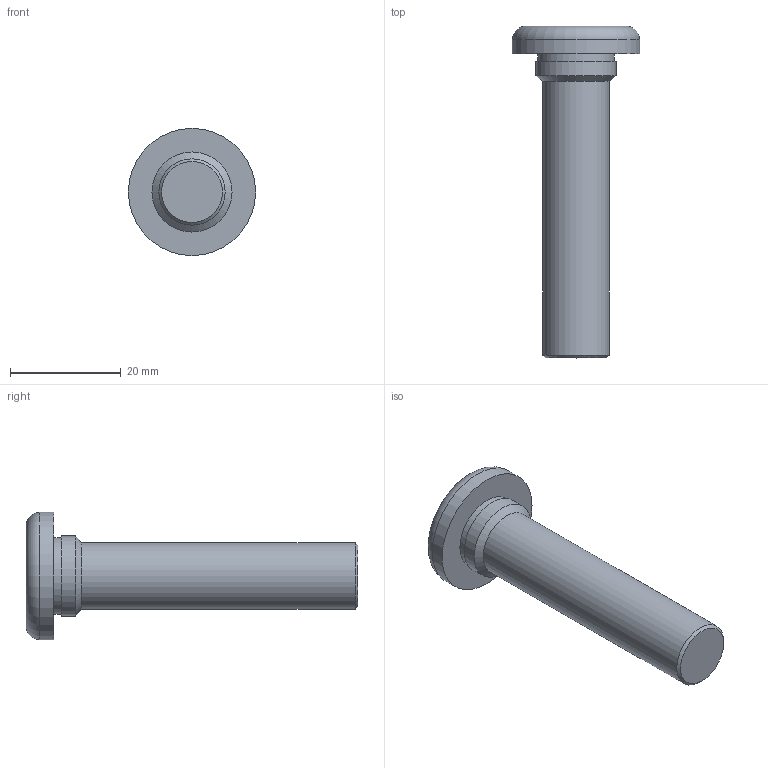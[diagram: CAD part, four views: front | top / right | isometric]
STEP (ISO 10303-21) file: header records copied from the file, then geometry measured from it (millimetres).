
FILE_DESCRIPTION(/* description */ (''),/* implementation_level */ '2;1');
FILE_NAME(/* name */ 'C:\Users\keval.kumar\Desktop\Fastit\Press Screw\M12\Press Screw_M12 x60.stp',/* time_stamp */ '2024-03-12T18:01:18+06:00',/* author */ ('keval.kumar'),/* organization */ (''),/* preprocessor_version */ 'ST-DEVELOPER v18.1',/* originating_system */ 'Autodesk Inventor 2022',/* authorisation */ '');
FILE_SCHEMA (('AUTOMOTIVE_DESIGN { 1 0 10303 214 3 1 1 }'));
Length unit declared in the file: millimetre
Products named in the file (1): Press Screw_M12 x60
Bounding box: 23 x 60 x 23 mm (x, y, z)
Volume: 8414.2 mm3; surface area: 3205.5 mm2
Topology: 1 solids, 1 shells, 11 faces, 19 edges, 12 vertices
Faces by surface type: cylinder 4, plane 4, cone 2, torus 1
Full cylindrical faces by diameter (mm): 12 x1, 13.9 x1, 14.5 x1, 23 x1
Entity records: 313 total; most frequent: DIRECTION 56, CARTESIAN_POINT 43, ORIENTED_EDGE 38, AXIS2_PLACEMENT_3D 25, EDGE_CURVE 19, EDGE_LOOP 13, CIRCLE 13, VERTEX_POINT 12
